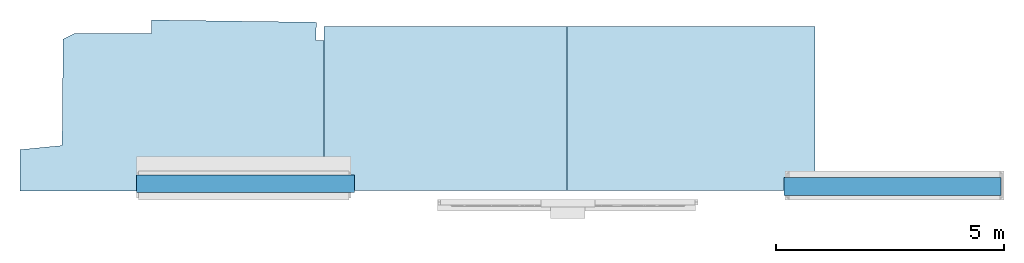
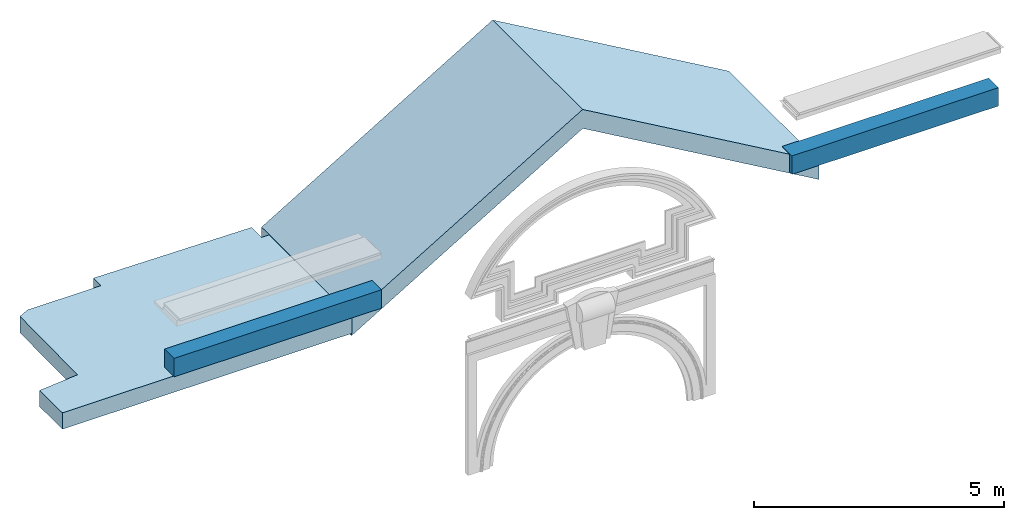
# One storey, part 1 of 4: 3 slabs, 1 roof, 1 element without a shape of its own.
"""IFC2X3 building model written with IfcOpenShell, lengths in metres."""

import ifcopenshell
import ifcopenshell.guid

model = None  # the IFC model being written
_history = None  # IfcOwnerHistory: only IFC2X3 demands one
_inside = {}  # id of a spatial element -> (the spatial element, [elements in it])
_under = {}  # id of a project, library or spatial element -> (it, [spatial elements below it])
_declared = {}  # id of a project -> (the project, [libraries it declares])
_typed = {}  # id of a type object -> (the type object, [elements of that type])
_made_of = {}  # id of a material, layer set ... -> (it, [elements and type objects made of it])


def new_model(schema):
    """Start an empty IFC model of exactly this schema.

    Asked for "IFC4X3", IfcOpenShell would pick the latest addendum, in which some entities
    have other attributes; the version numbers below select the first issue.
    IFC2X3 requires an IfcOwnerHistory on every rooted entity: one is made here for all.
    """
    global model, _history
    if schema == "IFC4X3":
        model = ifcopenshell.file(schema_version=(4, 3, 0, 0))
    else:
        model = ifcopenshell.file(schema=schema)
    _inside.clear()
    _under.clear()
    _declared.clear()
    _typed.clear()
    _made_of.clear()
    _history = None
    if model.schema == "IFC2X3":
        org = make("IfcOrganization", Name="unknown")
        user = make(
            "IfcPersonAndOrganization",
            ThePerson=make("IfcPerson", FamilyName="unknown"),
            TheOrganization=org,
        )
        app = make(
            "IfcApplication",
            ApplicationDeveloper=org,
            Version="unknown",
            ApplicationFullName="unknown",
            ApplicationIdentifier="unknown",
        )
        _history = make(
            "IfcOwnerHistory",
            OwningUser=user,
            OwningApplication=app,
            ChangeAction="ADDED",
            CreationDate=0,
        )
    return model


def make(cls, **values):
    """One entity of the class cls with the attributes given. An attribute that is None is left unset."""
    return model.create_entity(
        cls, **{name: value for name, value in values.items() if value is not None}
    )


def entity(cls, *values):
    """Any entity or typed value of the class cls, its attributes in the order of the schema. None: left unset."""
    e = model.create_entity(cls)
    for i, value in enumerate(values):
        if value is not None:
            e[i] = value
    return e


def rooted(cls, **values):
    """An entity with a GlobalId (a new one), such as an element, a storey or a relation."""
    return make(cls, GlobalId=ifcopenshell.guid.new(), OwnerHistory=_history, **values)


def si_unit(unit_type, name, prefix=None):
    """IfcSIUnit, for example si_unit("LENGTHUNIT", "METRE", prefix="MILLI")."""
    return make("IfcSIUnit", UnitType=unit_type, Prefix=prefix, Name=name)


def converted_unit(unit_type, name, factor, base, dimensions=None, offset=None):
    """IfcConversionBasedUnit, such as the inch: factor (a typed value) times the base unit."""
    return make(
        "IfcConversionBasedUnit"
        if offset is None
        else "IfcConversionBasedUnitWithOffset",
        ConversionOffset=offset,
        Dimensions=None
        if dimensions is None
        else entity("IfcDimensionalExponents", *dimensions),
        UnitType=unit_type,
        Name=name,
        ConversionFactor=make(
            "IfcMeasureWithUnit", ValueComponent=factor, UnitComponent=base
        ),
    )


def derived_unit(unit_type, elements):
    """IfcDerivedUnit: a product of units, each with its exponent."""
    return make(
        "IfcDerivedUnit",
        Elements=[
            make("IfcDerivedUnitElement", Unit=unit, Exponent=power)
            for unit, power in elements
        ],
        UnitType=unit_type,
    )


def assignment(units):
    """IfcUnitAssignment: the units of a project."""
    return None if units is None else make("IfcUnitAssignment", Units=units)


def point(xyz):
    """IfcCartesianPoint."""
    return None if xyz is None else make("IfcCartesianPoint", Coordinates=xyz)


def direction(xyz):
    """IfcDirection."""
    return None if xyz is None else make("IfcDirection", DirectionRatios=xyz)


def frame(location, z_axis=None, x_axis=None):
    """IfcAxis2Placement3D, a coordinate frame: its origin and axes. An axis left out is left unset."""
    return make(
        "IfcAxis2Placement3D",
        Location=point(location),
        Axis=direction(z_axis),
        RefDirection=direction(x_axis),
    )


def frame_2d(location, x_axis=None):
    """IfcAxis2Placement2D, a coordinate frame in the plane: its origin and x axis."""
    return make(
        "IfcAxis2Placement2D", Location=point(location), RefDirection=direction(x_axis)
    )


def origin():
    """The frame at (0, 0, 0) with its axes left unset."""
    return frame((0.0, 0.0, 0.0))


def place(relative_to, where):
    """IfcLocalPlacement: puts the frame where relative to a parent placement (None: the world)."""
    return make(
        "IfcLocalPlacement", PlacementRelTo=relative_to, RelativePlacement=where
    )


def context(
    kind, dimensions, precision=None, world=None, true_north=None, identifier=None
):
    """IfcGeometricRepresentationContext, for example the 3D "Model" context."""
    return make(
        "IfcGeometricRepresentationContext",
        ContextIdentifier=identifier,
        ContextType=kind,
        CoordinateSpaceDimension=dimensions,
        Precision=precision,
        WorldCoordinateSystem=world,
        TrueNorth=true_north,
    )


def subcontext(parent, identifier, kind, view, scale=None):
    """IfcGeometricRepresentationSubContext, for example "Body" below "Model"."""
    return make(
        "IfcGeometricRepresentationSubContext",
        ContextIdentifier=identifier,
        ContextType=kind,
        ParentContext=parent,
        TargetScale=scale,
        TargetView=view,
    )


def project(units=None, contexts=None):
    """IfcProject with its units and contexts."""
    return rooted(
        "IfcProject",
        Name="project",
        RepresentationContexts=contexts,
        UnitsInContext=assignment(units),
    )


def spatial(cls, under=None, at=None, **own):
    """A site, building, storey or space (cls), placed at a placement, below another one or the project."""
    s = rooted(cls, ObjectPlacement=at, **own)
    if under is not None:
        _under.setdefault(under.id(), (under, []))[1].append(s)
    return s


def polyline(points):
    """IfcPolyline through the points."""
    return make("IfcPolyline", Points=[point(p) for p in points])


def profile(cls, at=None, kind="AREA", **sizes):
    """A parametric profile (cls). Its sizes go by their IFC names, for example OverallWidth=200.0."""
    return make(cls, ProfileType=kind, Position=at, **sizes)


def rectangle(**sizes):
    """IfcRectangleProfileDef."""
    return profile("IfcRectangleProfileDef", **sizes)


def outline(outer, holes=None, kind="AREA"):
    """IfcArbitraryClosedProfileDef: a profile drawn as a closed curve; with holes, ...WithVoids."""
    if holes is None:
        return make("IfcArbitraryClosedProfileDef", ProfileType=kind, OuterCurve=outer)
    return make(
        "IfcArbitraryProfileDefWithVoids",
        ProfileType=kind,
        OuterCurve=outer,
        InnerCurves=holes,
    )


def extrude(swept, where, along, depth):
    """IfcExtrudedAreaSolid: the profile swept, set in the frame where, extruded along a direction by depth."""
    return make(
        "IfcExtrudedAreaSolid",
        SweptArea=swept,
        Position=where,
        ExtrudedDirection=direction(along),
        Depth=depth,
    )


def faces_of(points, faces, orient=None, outer=None):
    """IfcFace entities. A face is a list of loops; a loop is a list of indices into points, from 0.

    orient and outer hold one flag for each loop. By default every Orientation is true, the
    first loop of a face is its IfcFaceOuterBound and the others are IfcFaceBound.
    """
    made = []
    for i, loops in enumerate(faces):
        bounds = []
        for j, loop in enumerate(loops):
            is_outer = j == 0 if outer is None else outer[i][j]
            bounds.append(
                make(
                    "IfcFaceOuterBound" if is_outer else "IfcFaceBound",
                    Bound=make("IfcPolyLoop", Polygon=[points[k] for k in loop]),
                    Orientation=True if orient is None else orient[i][j],
                )
            )
        made.append(make("IfcFace", Bounds=bounds))
    return made


def faceted_brep(points, faces, orient=None, outer=None, voids=None):
    """IfcFacetedBrep: a solid bounded by flat faces; with voids (closed shells), ...WithVoids."""
    shared = [point(p) for p in points]
    hull = make("IfcClosedShell", CfsFaces=faces_of(shared, faces, orient, outer))
    if voids is None:
        return make("IfcFacetedBrep", Outer=hull)
    return make(
        "IfcFacetedBrepWithVoids",
        Outer=hull,
        Voids=[
            make(cls, CfsFaces=faces_of(shared, fs, o, b)) for cls, fs, o, b in voids
        ],
    )


def shape(context_of_items, identifier, shape_type, items):
    """IfcShapeRepresentation: the items that make up one representation, for example the "Body"."""
    return make(
        "IfcShapeRepresentation",
        ContextOfItems=context_of_items,
        RepresentationIdentifier=identifier,
        RepresentationType=shape_type,
        Items=items,
    )


def material(Name=None, Category=None):
    """IfcMaterial."""
    return make("IfcMaterial", Name=Name, Category=Category)


def layer(
    of_material, thickness, ventilated=None, Name=None, Category=None, Priority=None
):
    """IfcMaterialLayer: one layer of a wall or slab, of a material (None: an air gap)."""
    return make(
        "IfcMaterialLayer",
        Material=of_material,
        LayerThickness=thickness,
        IsVentilated=ventilated,
        Name=Name,
        Category=Category,
        Priority=Priority,
    )


def layer_set(layers, Name=None):
    """IfcMaterialLayerSet."""
    return make("IfcMaterialLayerSet", MaterialLayers=layers, LayerSetName=Name)


def layer_usage(for_layer_set, set_direction, sense, offset, extent=None):
    """IfcMaterialLayerSetUsage: how a layer set lies in its element."""
    return make(
        "IfcMaterialLayerSetUsage",
        ForLayerSet=for_layer_set,
        LayerSetDirection=set_direction,
        DirectionSense=sense,
        OffsetFromReferenceLine=offset,
        ReferenceExtent=extent,
    )


def made_of(thing, what):
    """Note that an element or type object is made of a material, layer set ...; save() writes the relation."""
    if what is not None:
        _made_of.setdefault(what.id(), (what, []))[1].append(thing)
    return thing


def element(
    cls,
    number,
    at=None,
    inside=None,
    cuts=None,
    type_object=None,
    material=None,
    context=None,
    identifier="Body",
    shape_type=None,
    held_by="IfcProductDefinitionShape",
    body=None,
    shapes=None,
    **own,
):
    """One element of the class cls, such as IfcWall. Its Tag is "e" and its number.

    at: its placement. inside: the storey or other place that contains it. cuts: it is an
    opening in that element (IfcRelVoidsElement). A single representation is given by context,
    identifier, shape_type and body (its items); several are given by shapes. held_by: the class
    of the entity that holds the representations. save() writes the other relations.
    """
    e = rooted(cls, Tag="e%d" % number, ObjectPlacement=at, **own)
    if body is not None:
        shapes = [shape(context, identifier, shape_type, body)]
    if shapes is not None:
        e.Representation = make(held_by, Representations=shapes)
    if inside is not None:
        _inside.setdefault(inside.id(), (inside, []))[1].append(e)
    if cuts is not None:
        rooted(
            "IfcRelVoidsElement", RelatingBuildingElement=cuts, RelatedOpeningElement=e
        )
    if type_object is not None:
        _typed.setdefault(type_object.id(), (type_object, []))[1].append(e)
    return made_of(e, material)


def aggregate(whole, parts):
    """IfcRelAggregates: a whole, such as a stair, and the parts it consists of."""
    return rooted("IfcRelAggregates", RelatingObject=whole, RelatedObjects=parts)


def save(model, path):
    """Write the relations noted so far, then the file.

    IfcRelAggregates (storeys below a building ...), IfcRelContainedInSpatialStructure (elements
    in a storey), IfcRelDefinesByType, IfcRelAssociatesMaterial and IfcRelDeclares: one each for
    every whole, place, type object, material and project.
    """
    for whole, parts in _under.values():
        aggregate(whole, parts)
    for where, things in _inside.values():
        rooted(
            "IfcRelContainedInSpatialStructure",
            RelatedElements=things,
            RelatingStructure=where,
        )
    for kind, things in _typed.values():
        rooted("IfcRelDefinesByType", RelatedObjects=things, RelatingType=kind)
    for what, things in _made_of.values():
        rooted("IfcRelAssociatesMaterial", RelatedObjects=things, RelatingMaterial=what)
    for by, libraries in _declared.values():
        rooted("IfcRelDeclares", RelatingContext=by, RelatedDefinitions=libraries)
    model.write(path)


model = new_model("IFC2X3")

# Units and contexts
model_context = context("Model", 3, precision=1e-05, world=origin(), true_north=direction((6.12303176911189e-17, 1.0)))
body_context = subcontext(model_context, "Body", "Model", "MODEL_VIEW")
ifc_project = project(units=[si_unit("LENGTHUNIT", "METRE"), si_unit("AREAUNIT", "SQUARE_METRE"), si_unit("VOLUMEUNIT", "CUBIC_METRE"), converted_unit("PLANEANGLEUNIT", "DEGREE", entity("IfcRatioMeasure", 0.0174532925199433), si_unit("PLANEANGLEUNIT", "RADIAN"), dimensions=[0, 0, 0, 0, 0, 0, 0]), si_unit("MASSUNIT", "GRAM", prefix="KILO"), derived_unit("MASSDENSITYUNIT", [(si_unit("MASSUNIT", "GRAM", prefix="KILO"), 1), (si_unit("LENGTHUNIT", "METRE"), -3)]), si_unit("TIMEUNIT", "SECOND"), si_unit("FREQUENCYUNIT", "HERTZ"), si_unit("THERMODYNAMICTEMPERATUREUNIT", "DEGREE_CELSIUS"), derived_unit("THERMALTRANSMITTANCEUNIT", [(si_unit("MASSUNIT", "GRAM", prefix="KILO"), 1), (si_unit("THERMODYNAMICTEMPERATUREUNIT", "KELVIN"), -1), (si_unit("TIMEUNIT", "SECOND"), -3)]), derived_unit("VOLUMETRICFLOWRATEUNIT", [(si_unit("LENGTHUNIT", "METRE"), 3), (si_unit("TIMEUNIT", "SECOND"), -1)]), si_unit("ELECTRICCURRENTUNIT", "AMPERE"), si_unit("ELECTRICVOLTAGEUNIT", "VOLT"), si_unit("POWERUNIT", "WATT"), si_unit("FORCEUNIT", "NEWTON", prefix="KILO"), si_unit("ILLUMINANCEUNIT", "LUX"), si_unit("LUMINOUSFLUXUNIT", "LUMEN"), si_unit("LUMINOUSINTENSITYUNIT", "CANDELA"), derived_unit("USERDEFINED", [(si_unit("MASSUNIT", "GRAM", prefix="KILO"), -1), (si_unit("LENGTHUNIT", "METRE"), -2), (si_unit("TIMEUNIT", "SECOND"), 3), (si_unit("LUMINOUSFLUXUNIT", "LUMEN"), 1)]), derived_unit("LINEARVELOCITYUNIT", [(si_unit("LENGTHUNIT", "METRE"), 1), (si_unit("TIMEUNIT", "SECOND"), -1)]), si_unit("PRESSUREUNIT", "PASCAL"), derived_unit("USERDEFINED", [(si_unit("LENGTHUNIT", "METRE"), -2), (si_unit("MASSUNIT", "GRAM", prefix="KILO"), 1), (si_unit("TIMEUNIT", "SECOND"), -2)])], contexts=[model_context])

# Site, building, storey
site_placement = place(None, origin())
site = spatial("IfcSite", under=ifc_project, at=site_placement, Name="Default", CompositionType="ELEMENT")
building_placement = place(site_placement, origin())
building = spatial("IfcBuilding", under=site, at=building_placement, CompositionType="ELEMENT")
storey_placement = place(building_placement, frame((0.0, 0.0, 23.3294157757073)))
storey = spatial("IfcBuildingStorey", under=building, at=storey_placement, Name="Livello 3", CompositionType="ELEMENT", Elevation=23.3294157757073)

# Roof, slab
roof_1_placement = place(storey_placement, frame((-12.0889166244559, 1.45337273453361, -0.439999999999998)))
roof_1 = element("IfcRoof", 1, at=roof_1_placement, inside=storey, Name="Tetto di base:Terrazzo", ObjectType="Tetto di base:Terrazzo", ShapeType="NOTDEFINED")
ifc_material_1 = material(Name="Piastrella, Quadrello")
ifc_layer_1 = layer(ifc_material_1, 0.4)
ifc_layer_set_1 = layer_set([ifc_layer_1], Name="Tetto di base:Terrazzo")
slab_1_placement = place(roof_1_placement, origin())
slab_1 = element("IfcSlab", 2, at=slab_1_placement, material=ifc_layer_set_1, Name="Tetto di base:Terrazzo", ObjectType="Tetto di base:Terrazzo", PredefinedType="ROOF", context=body_context, shape_type="SweptSolid", body=[
    extrude(outline(polyline([(-3.34059794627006, -1.8782757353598), (3.34059794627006, -1.87827573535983), (3.34059794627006, 1.42938111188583), (3.16361682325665, 1.42843715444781), (3.169119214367, 1.82839930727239), (-0.456338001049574, 1.87827573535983), (-0.456338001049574, 1.57678279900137), (-2.15633800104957, 1.57678279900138), (-2.3934584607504, 1.45621087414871), (-2.41540315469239, -0.879541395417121), (-3.34059794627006, -0.970284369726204), (-3.34059794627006, -1.8782757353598)])), frame((3.34059794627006, 1.87827573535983, 0.0)), (0.0, 0.0, 1.0), 0.4),
])
aggregate(roof_1, [slab_1])

# Slabs
ifc_material_2 = material(Name="Piperno")
ifc_layer_2 = layer(ifc_material_2, 0.45)
ifc_layer_set_2 = layer_set([ifc_layer_2], Name="Pavimento:Basamento_Balaustra 2")
ifc_layer_usage = layer_usage(ifc_layer_set_2, "AXIS3", "POSITIVE", 0.0)
slab_2_placement = place(storey_placement, frame((-9.52653938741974, 1.35817014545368, -0.0400000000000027)))
element("IfcSlab", 3, at=slab_2_placement, inside=storey, material=ifc_layer_usage, Name="Pavimento:Basamento_Balaustra 2", ObjectType="Pavimento:Basamento_Balaustra 2", PredefinedType="FLOOR", context=body_context, shape_type="SweptSolid", body=[
    extrude(rectangle(XDim=4.78459525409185, YDim=0.376746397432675, at=frame_2d((7.1, 0.0327058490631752), x_axis=(1.0, 0.0))), frame((9.49229762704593, 0.221079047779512, 0.450000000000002), z_axis=(0.0, 0.0, -1.0), x_axis=(-1.0, 0.0, 0.0)), (0.0, 0.0, 1.0), 0.450000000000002),
])
slab_3_placement = place(storey_placement, frame((-9.52653938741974, 1.35817014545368, -0.0400000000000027)))
element("IfcSlab", 4, at=slab_3_placement, inside=storey, material=ifc_layer_usage, Name="Pavimento:Basamento_Balaustra 2:2", ObjectType="Pavimento:Basamento_Balaustra 2", PredefinedType="FLOOR", context=body_context, shape_type="SweptSolid", body=[
    extrude(rectangle(XDim=4.76459525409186, YDim=0.38662628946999, at=frame_2d((-7.11, -0.0277659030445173), x_axis=(1.0, 0.0))), frame((9.49229762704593, 0.221079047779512, 0.450000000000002), z_axis=(0.0, 0.0, -1.0), x_axis=(-1.0, 0.0, 0.0)), (0.0, 0.0, 1.0), 0.450000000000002),
])

# Roof
ifc_material_3 = material(Name="Asfalto, Bitume")
roof_2_placement = place(storey_placement, frame((-5.40772073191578, 1.46337273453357, -0.500971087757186)))
element("IfcRoof", 5, at=roof_2_placement, inside=storey, material=ifc_material_3, Name="Tetto di base:Generico - 400 mm", ObjectType="Tetto di base:Generico - 400 mm:1398", ShapeType="NOTDEFINED", context=body_context, shape_type="Brep", body=[
    faceted_brep([(10.7817321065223, 0.0, 0.497325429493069), (5.33160805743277, 0.0, 3.65189673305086), (0.0, 0.0, 0.465973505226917), (0.0, 0.0, 0.0), (5.33483973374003, 0.0, 3.18785432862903), (10.7817321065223, 0.0, 0.035153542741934), (10.7817321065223, 3.6, 0.497325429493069), (10.7817321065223, 3.6, 0.035153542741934), (5.33483973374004, 3.60000000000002, 3.18785432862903), (0.0, 3.60000000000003, 0.0), (0.0, 3.60000000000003, 0.465973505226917), (5.33160805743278, 3.60000000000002, 3.65189673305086)], [[[0, 1, 2, 3, 4, 5]], [[6, 7, 8, 9, 10, 11]], [[1, 0, 6, 11]], [[2, 1, 11, 10]], [[3, 2, 10, 9]], [[4, 3, 9, 8]], [[5, 4, 8, 7]], [[0, 5, 7, 6]]]),
])

save(model, "model.ifc")
